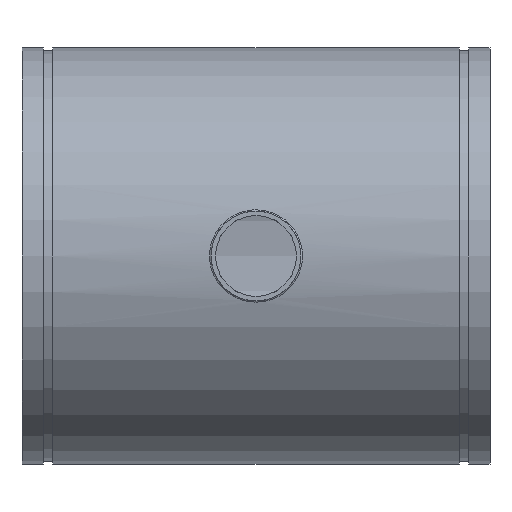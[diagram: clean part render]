
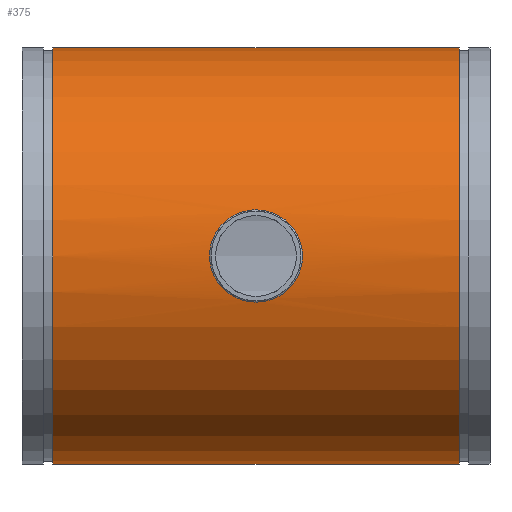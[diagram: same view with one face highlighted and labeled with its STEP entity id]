
A CAD part, front view. The second image highlights one B-rep face of the part: STEP entity #375.
In plain terms, the highlighted cylindrical face has radius 406.4 mm (diameter 812.8 mm), a full revolution.
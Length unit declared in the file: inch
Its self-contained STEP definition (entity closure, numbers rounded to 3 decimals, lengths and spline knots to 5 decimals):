
#54=FACE_BOUND('',#119,.T.);
#65=LINE('',#791,#76);
#76=VECTOR('',#483,16.);
#87=CYLINDRICAL_SURFACE('',#415,16.);
#98=FACE_OUTER_BOUND('',#118,.T.);
#118=EDGE_LOOP('',(#266,#267,#268,#269));
#119=EDGE_LOOP('',(#270));
#150=B_SPLINE_CURVE_WITH_KNOTS('',3,(#763,#764,#765,#766,#767,#768,#769,
#770,#771,#772,#773,#774,#775,#776,#777,#778,#779,#780,#781,#782,#783,#784,
#785,#786),.UNSPECIFIED.,.T.,.F.,(4,1,1,1,1,1,1,1,1,1,1,1,1,1,1,1,1,1,1,
1,1,4),(-52.99401,-51.10136,-49.20872,-45.42343,
-42.89991,-40.37639,-37.85286,-35.32934,
-32.80581,-30.28229,-27.75877,-25.23524,
-22.71172,-20.18819,-17.66467,-15.14114,
-12.61762,-10.0941,-7.57057,-3.78529,
-1.89264,0.),.UNSPECIFIED.);
#154=CIRCLE('',#416,16.);
#155=CIRCLE('',#417,16.);
#182=VERTEX_POINT('',#731);
#185=VERTEX_POINT('',#788);
#186=VERTEX_POINT('',#790);
#219=EDGE_CURVE('',#182,#182,#150,.T.);
#220=EDGE_CURVE('',#185,#185,#154,.T.);
#221=EDGE_CURVE('',#185,#186,#65,.T.);
#222=EDGE_CURVE('',#186,#186,#155,.T.);
#266=ORIENTED_EDGE('',*,*,#220,.T.);
#267=ORIENTED_EDGE('',*,*,#221,.T.);
#268=ORIENTED_EDGE('',*,*,#222,.T.);
#269=ORIENTED_EDGE('',*,*,#221,.F.);
#270=ORIENTED_EDGE('',*,*,#219,.F.);
#375=ADVANCED_FACE('',(#98,#54),#87,.T.);
#415=AXIS2_PLACEMENT_3D('',#787,#479,#480);
#416=AXIS2_PLACEMENT_3D('',#789,#481,#482);
#417=AXIS2_PLACEMENT_3D('',#792,#484,#485);
#479=DIRECTION('center_axis',(-1.,0.,0.));
#480=DIRECTION('ref_axis',(0.,-1.,0.));
#481=DIRECTION('center_axis',(1.,0.,0.));
#482=DIRECTION('ref_axis',(0.,-1.,0.));
#483=DIRECTION('',(1.,0.,0.));
#484=DIRECTION('center_axis',(-1.,0.,0.));
#485=DIRECTION('ref_axis',(0.,-1.,0.));
#731=CARTESIAN_POINT('',(0.,-15.60182,-3.54729));
#763=CARTESIAN_POINT('Ctrl Pts',(0.,-15.60182,-3.54729));
#764=CARTESIAN_POINT('Ctrl Pts',(0.26824,-15.60182,-3.54729));
#765=CARTESIAN_POINT('Ctrl Pts',(0.80452,-15.61573,-3.48692));
#766=CARTESIAN_POINT('Ctrl Pts',(1.82155,-15.6928,-3.13349));
#767=CARTESIAN_POINT('Ctrl Pts',(2.74598,-15.83113,-2.40088));
#768=CARTESIAN_POINT('Ctrl Pts',(3.37649,-15.95615,-1.3187));
#769=CARTESIAN_POINT('Ctrl Pts',(3.61908,-16.00986,-0.27026));
#770=CARTESIAN_POINT('Ctrl Pts',(3.53738,-15.99139,0.80407));
#771=CARTESIAN_POINT('Ctrl Pts',(3.14086,-15.90725,1.80293));
#772=CARTESIAN_POINT('Ctrl Pts',(2.46818,-15.7866,2.63888));
#773=CARTESIAN_POINT('Ctrl Pts',(1.57759,-15.67026,3.24249));
#774=CARTESIAN_POINT('Ctrl Pts',(0.54292,-15.59891,3.56045));
#775=CARTESIAN_POINT('Ctrl Pts',(-0.54293,-15.59886,3.56052));
#776=CARTESIAN_POINT('Ctrl Pts',(-1.57756,-15.67029,3.24244));
#777=CARTESIAN_POINT('Ctrl Pts',(-2.46823,-15.7866,2.63888));
#778=CARTESIAN_POINT('Ctrl Pts',(-3.14083,-15.90724,1.80291));
#779=CARTESIAN_POINT('Ctrl Pts',(-3.53744,-15.99143,0.80409));
#780=CARTESIAN_POINT('Ctrl Pts',(-3.61899,-16.00982,-0.27022));
#781=CARTESIAN_POINT('Ctrl Pts',(-3.37653,-15.9562,-1.31871));
#782=CARTESIAN_POINT('Ctrl Pts',(-2.74595,-15.83109,-2.40091));
#783=CARTESIAN_POINT('Ctrl Pts',(-1.82153,-15.69281,-3.1335));
#784=CARTESIAN_POINT('Ctrl Pts',(-0.80453,-15.61573,-3.48691));
#785=CARTESIAN_POINT('Ctrl Pts',(-0.26824,-15.60182,-3.54729));
#786=CARTESIAN_POINT('Ctrl Pts',(0.,-15.60182,-3.54729));
#787=CARTESIAN_POINT('Origin',(18.,0.,0.));
#788=CARTESIAN_POINT('',(-15.625,16.,0.));
#789=CARTESIAN_POINT('Origin',(-15.625,0.,0.));
#790=CARTESIAN_POINT('',(15.625,16.,0.));
#791=CARTESIAN_POINT('',(18.,16.,0.));
#792=CARTESIAN_POINT('Origin',(15.625,0.,0.));
